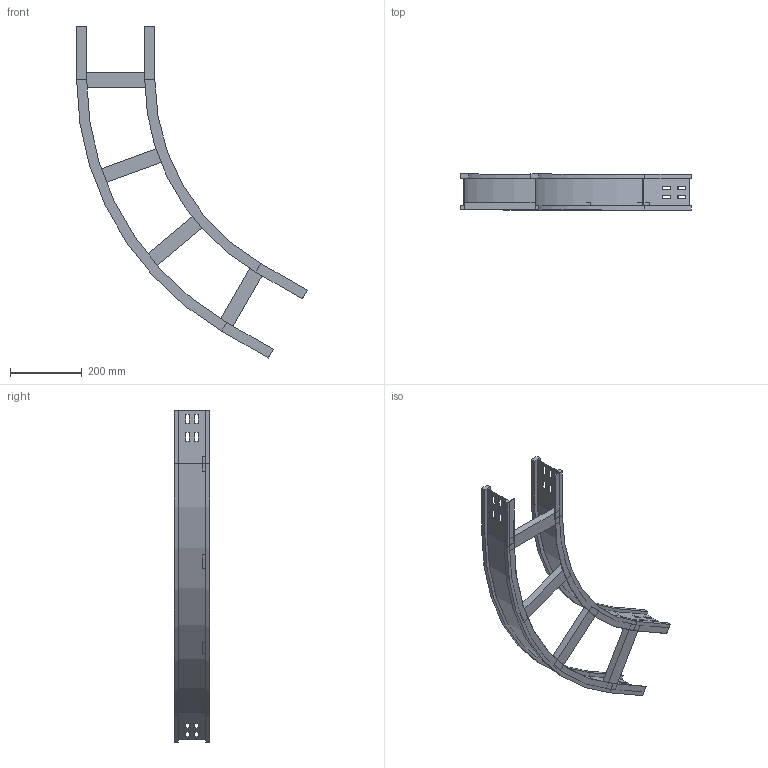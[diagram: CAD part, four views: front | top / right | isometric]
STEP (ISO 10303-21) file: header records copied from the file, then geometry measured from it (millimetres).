
FILE_DESCRIPTION (( 'STEP AP214' ), '1' );
FILE_NAME ('13S6D200.step', '2025-02-21T16:06:47', ( '' ), ( '' ), 'SwSTEP 2.0', 'SolidWorks 2023', '' );
FILE_SCHEMA (( 'AUTOMOTIVE_DESIGN' ));
Length unit declared in the file: millimetre
Products named in the file (4): LONGH.ESTERNO 60°_H100_R600+200; 13S6D200; TRAVERSINO_200; LONGH.INTERNO 60°_H100_R600
Assembly tree (6 placements, depth 2):
  13S6D200
    LONGH.INTERNO 60°_H100_R600
    LONGH.ESTERNO 60°_H100_R600+200
    TRAVERSINO_200  x4
Bounding box: 643.4 x 100 x 925.61 mm (x, y, z)
Volume: 1728417.1 mm3; surface area: 712005.7 mm2
Topology: 6 solids, 6 shells, 164 faces, 408 edges, 256 vertices
Faces by surface type: plane 152, cylinder 12
Entity records: 4485 total; most frequent: CARTESIAN_POINT 759, ORIENTED_EDGE 744, DIRECTION 706, EDGE_CURVE 372, LINE 348, VECTOR 348, VERTEX_POINT 232, AXIS2_PLACEMENT_3D 179
